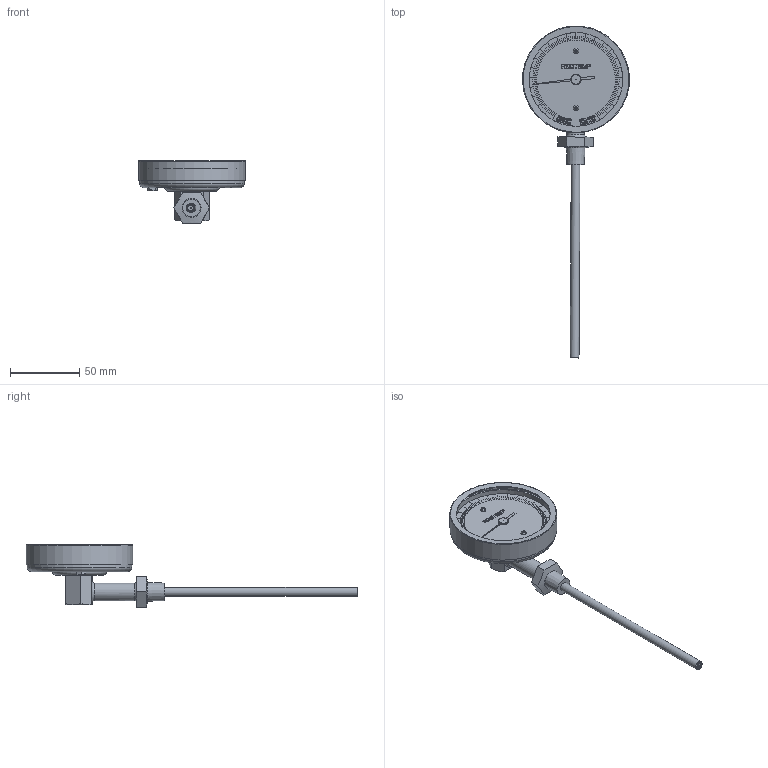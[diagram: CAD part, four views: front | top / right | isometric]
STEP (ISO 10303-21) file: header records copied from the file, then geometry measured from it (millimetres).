
FILE_DESCRIPTION(/* description */ (''),/* implementation_level */ '2;1');
FILE_NAME(/* name */ 'P:\3D Drawings\XR\XR-quarter-NPT\XR-quarter-NPT-STP\XR-quarter-NPT-STP.stp',/* time_stamp */ '2015-11-09T11:36:41-08:00',/* author */ ('charles'),/* organization */ (''),/* preprocessor_version */ 'ST-DEVELOPER v15.2',/* originating_system */ 'Autodesk Inventor 2014',/* authorisation */ '');
FILE_SCHEMA (('AUTOMOTIVE_DESIGN { 1 0 10303 214 3 1 1 }'));
Length unit declared in the file: inch
Products named in the file (1): XR-quarter-NPT
Bounding box: 77.4 x 240.42 x 45.2 mm (x, y, z)
Volume: 53749.4 mm3; surface area: 47035.1 mm2
Topology: 33 solids, 33 shells, 1672 faces, 4770 edges, 3178 vertices
Faces by surface type: plane 1249, bspline 383, cylinder 20, torus 10, cone 10
Full cylindrical faces by diameter (mm): 0.311 x1, 0.778 x1, 2.286 x4, 6.35 x1, 6.714 x1, 6.934 x2, 12.7 x1, 67.855 x1, 70.612 x2, 73.406 x1, 75.946 x1, 76.2 x1, 77.47 x1
Entity records: 59933 total; most frequent: CARTESIAN_POINT 16743, ORIENTED_EDGE 9464, DIRECTION 6571, EDGE_CURVE 4732, LINE 3855, VECTOR 3855, VERTEX_POINT 3172, EDGE_LOOP 2136
